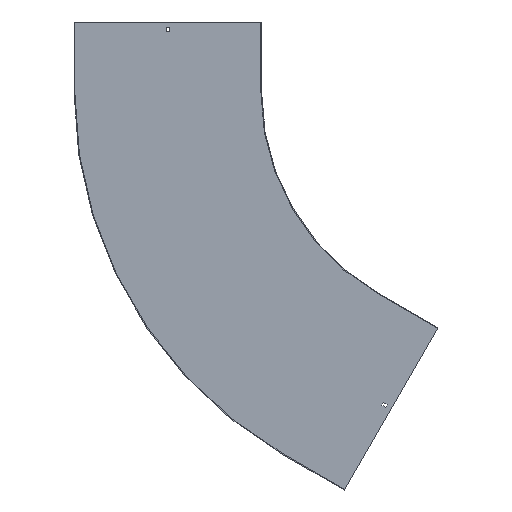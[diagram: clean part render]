
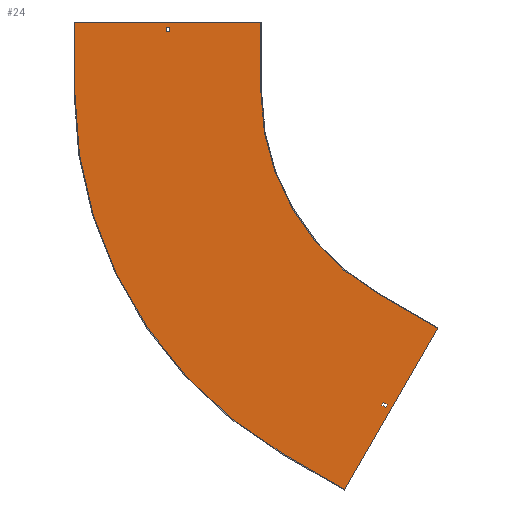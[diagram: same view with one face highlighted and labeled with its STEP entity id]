
A CAD part, front view. The second image highlights one B-rep face of the part: STEP entity #24.
In plain terms, the highlighted planar face has unit normal (0, -1, 0).
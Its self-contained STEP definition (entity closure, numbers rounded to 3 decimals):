
#3 = DIRECTION ( 'NONE',  ( 1., 0., 0. ) ) ;
#12 = LINE ( 'NONE', #623, #386 ) ;
#14 = CIRCLE ( 'NONE', #48, 900. ) ;
#17 = DIRECTION ( 'NONE',  ( 0., 0., -1. ) ) ;
#21 = ORIENTED_EDGE ( 'NONE', *, *, #471, .T. ) ;
#24 = ADVANCED_FACE ( 'NONE', ( #393, #185, #454 ), #115, .T. ) ;
#28 = ORIENTED_EDGE ( 'NONE', *, *, #215, .F. ) ;
#37 = VECTOR ( 'NONE', #3, 1000. ) ;
#45 = CARTESIAN_POINT ( 'NONE',  ( -696.75, -1.5, 129. ) ) ;
#47 = DIRECTION ( 'NONE',  ( -0.866, 0., 0.5 ) ) ;
#48 = AXIS2_PLACEMENT_3D ( 'NONE', #132, #498, #17 ) ;
#49 = CARTESIAN_POINT ( 'NONE',  ( 0., -1.5, 0. ) ) ;
#51 = EDGE_CURVE ( 'NONE', #156, #358, #444, .T. ) ;
#58 = DIRECTION ( 'NONE',  ( 1., 0., 0. ) ) ;
#64 = VECTOR ( 'NONE', #335, 1000. ) ;
#69 = CARTESIAN_POINT ( 'NONE',  ( 0., -1.5, 138. ) ) ;
#71 = LINE ( 'NONE', #338, #77 ) ;
#77 = VECTOR ( 'NONE', #606, 1000. ) ;
#78 = ORIENTED_EDGE ( 'NONE', *, *, #478, .F. ) ;
#80 = CIRCLE ( 'NONE', #631, 500. ) ;
#81 = ORIENTED_EDGE ( 'NONE', *, *, #827, .F. ) ;
#85 = LINE ( 'NONE', #225, #231 ) ;
#87 = CARTESIAN_POINT ( 'NONE',  ( -236.658, -1.5, -667.903 ) ) ;
#104 = VECTOR ( 'NONE', #423, 1000. ) ;
#106 = DIRECTION ( 'NONE',  ( 0., 0., 1. ) ) ;
#115 = PLANE ( 'NONE',  #815 ) ;
#124 = VERTEX_POINT ( 'NONE', #125 ) ;
#125 = CARTESIAN_POINT ( 'NONE',  ( -120.096, -1.5, -508.013 ) ) ;
#132 = CARTESIAN_POINT ( 'NONE',  ( 0., -1.5, 0. ) ) ;
#151 = DIRECTION ( 'NONE',  ( 0.866, 0., -0.5 ) ) ;
#154 = LINE ( 'NONE', #160, #104 ) ;
#155 = CARTESIAN_POINT ( 'NONE',  ( -703.25, -1.5, 129. ) ) ;
#156 = VERTEX_POINT ( 'NONE', #417 ) ;
#160 = CARTESIAN_POINT ( 'NONE',  ( 0., -1.5, 129. ) ) ;
#163 = EDGE_CURVE ( 'NONE', #734, #124, #85, .T. ) ;
#177 = CARTESIAN_POINT ( 'NONE',  ( -228.863, -1.5, -672.403 ) ) ;
#180 = VERTEX_POINT ( 'NONE', #177 ) ;
#184 = DIRECTION ( 'NONE',  ( -0.866, 0., 0.5 ) ) ;
#185 = FACE_OUTER_BOUND ( 'NONE', #790, .T. ) ;
#186 = CARTESIAN_POINT ( 'NONE',  ( 0., -1.5, 0. ) ) ;
#201 = ORIENTED_EDGE ( 'NONE', *, *, #336, .T. ) ;
#204 = VERTEX_POINT ( 'NONE', #45 ) ;
#212 = EDGE_CURVE ( 'NONE', #320, #180, #582, .T. ) ;
#215 = EDGE_CURVE ( 'NONE', #450, #290, #838, .T. ) ;
#223 = VERTEX_POINT ( 'NONE', #703 ) ;
#225 = CARTESIAN_POINT ( 'NONE',  ( -250., -1.5, -433.013 ) ) ;
#230 = ORIENTED_EDGE ( 'NONE', *, *, #266, .T. ) ;
#231 = VECTOR ( 'NONE', #151, 1000. ) ;
#241 = CARTESIAN_POINT ( 'NONE',  ( -239.908, -1.5, -673.532 ) ) ;
#243 = VERTEX_POINT ( 'NONE', #771 ) ;
#244 = CARTESIAN_POINT ( 'NONE',  ( -320.096, -1.5, -854.423 ) ) ;
#251 = VECTOR ( 'NONE', #58, 1000. ) ;
#261 = CARTESIAN_POINT ( 'NONE',  ( -500., -1.5, 150. ) ) ;
#264 = CARTESIAN_POINT ( 'NONE',  ( -901.5, -1.5, 150. ) ) ;
#266 = EDGE_CURVE ( 'NONE', #243, #223, #330, .T. ) ;
#267 = LINE ( 'NONE', #538, #696 ) ;
#271 = LINE ( 'NONE', #543, #481 ) ;
#272 = CARTESIAN_POINT ( 'NONE',  ( 111.717, -1.5, -64.5 ) ) ;
#287 = CARTESIAN_POINT ( 'NONE',  ( -900., -1.5, 150. ) ) ;
#290 = VERTEX_POINT ( 'NONE', #863 ) ;
#298 = EDGE_CURVE ( 'NONE', #124, #450, #541, .T. ) ;
#320 = VERTEX_POINT ( 'NONE', #616 ) ;
#321 = EDGE_CURVE ( 'NONE', #445, #535, #720, .T. ) ;
#330 = LINE ( 'NONE', #69, #251 ) ;
#332 = DIRECTION ( 'NONE',  ( 0., 0., -1. ) ) ;
#335 = DIRECTION ( 'NONE',  ( -0.5, 0., -0.866 ) ) ;
#336 = EDGE_CURVE ( 'NONE', #223, #204, #267, .T. ) ;
#338 = CARTESIAN_POINT ( 'NONE',  ( -351.625, -1.5, -609.032 ) ) ;
#346 = ORIENTED_EDGE ( 'NONE', *, *, #51, .F. ) ;
#358 = VERTEX_POINT ( 'NONE', #287 ) ;
#377 = CARTESIAN_POINT ( 'NONE',  ( -500., -1.5, 0. ) ) ;
#382 = VECTOR ( 'NONE', #106, 1000. ) ;
#386 = VECTOR ( 'NONE', #476, 1000. ) ;
#393 = FACE_BOUND ( 'NONE', #826, .T. ) ;
#417 = CARTESIAN_POINT ( 'NONE',  ( -900., -1.5, 0. ) ) ;
#422 = ORIENTED_EDGE ( 'NONE', *, *, #321, .F. ) ;
#423 = DIRECTION ( 'NONE',  ( -1., 0., 0. ) ) ;
#424 = EDGE_CURVE ( 'NONE', #290, #156, #14, .T. ) ;
#437 = CARTESIAN_POINT ( 'NONE',  ( 119.512, -1.5, -69. ) ) ;
#444 = LINE ( 'NONE', #704, #382 ) ;
#445 = VERTEX_POINT ( 'NONE', #87 ) ;
#450 = VERTEX_POINT ( 'NONE', #745 ) ;
#454 = FACE_BOUND ( 'NONE', #750, .T. ) ;
#460 = DIRECTION ( 'NONE',  ( 0., -1., 0. ) ) ;
#471 = EDGE_CURVE ( 'NONE', #614, #243, #12, .T. ) ;
#476 = DIRECTION ( 'NONE',  ( 0., 0., 1. ) ) ;
#478 = EDGE_CURVE ( 'NONE', #535, #320, #71, .T. ) ;
#481 = VECTOR ( 'NONE', #47, 1000. ) ;
#498 = DIRECTION ( 'NONE',  ( 0., 1., 0. ) ) ;
#513 = EDGE_CURVE ( 'NONE', #204, #614, #154, .T. ) ;
#518 = ORIENTED_EDGE ( 'NONE', *, *, #298, .F. ) ;
#535 = VERTEX_POINT ( 'NONE', #241 ) ;
#538 = CARTESIAN_POINT ( 'NONE',  ( -696.75, -1.5, 0. ) ) ;
#541 = LINE ( 'NONE', #798, #64 ) ;
#543 = CARTESIAN_POINT ( 'NONE',  ( -348.375, -1.5, -603.403 ) ) ;
#555 = DIRECTION ( 'NONE',  ( 0., 0., -1. ) ) ;
#560 = VERTEX_POINT ( 'NONE', #833 ) ;
#566 = ORIENTED_EDGE ( 'NONE', *, *, #163, .F. ) ;
#573 = ORIENTED_EDGE ( 'NONE', *, *, #513, .T. ) ;
#579 = VECTOR ( 'NONE', #848, 1000. ) ;
#582 = LINE ( 'NONE', #437, #626 ) ;
#587 = DIRECTION ( 'NONE',  ( 0.5, 0., 0.866 ) ) ;
#592 = CARTESIAN_POINT ( 'NONE',  ( -250., -1.5, -433.013 ) ) ;
#598 = DIRECTION ( 'NONE',  ( -0.5, 0., -0.866 ) ) ;
#602 = LINE ( 'NONE', #264, #37 ) ;
#606 = DIRECTION ( 'NONE',  ( 0.866, 0., -0.5 ) ) ;
#614 = VERTEX_POINT ( 'NONE', #155 ) ;
#616 = CARTESIAN_POINT ( 'NONE',  ( -232.113, -1.5, -678.032 ) ) ;
#623 = CARTESIAN_POINT ( 'NONE',  ( -703.25, -1.5, 0. ) ) ;
#626 = VECTOR ( 'NONE', #587, 1000. ) ;
#630 = ORIENTED_EDGE ( 'NONE', *, *, #851, .F. ) ;
#631 = AXIS2_PLACEMENT_3D ( 'NONE', #186, #801, #332 ) ;
#656 = LINE ( 'NONE', #261, #579 ) ;
#676 = ORIENTED_EDGE ( 'NONE', *, *, #699, .F. ) ;
#696 = VECTOR ( 'NONE', #555, 1000. ) ;
#699 = EDGE_CURVE ( 'NONE', #560, #797, #656, .T. ) ;
#703 = CARTESIAN_POINT ( 'NONE',  ( -696.75, -1.5, 138. ) ) ;
#704 = CARTESIAN_POINT ( 'NONE',  ( -900., -1.5, 0. ) ) ;
#713 = ORIENTED_EDGE ( 'NONE', *, *, #424, .F. ) ;
#715 = VECTOR ( 'NONE', #184, 1000. ) ;
#717 = DIRECTION ( 'NONE',  ( 0., 0., -1. ) ) ;
#720 = LINE ( 'NONE', #272, #739 ) ;
#721 = ORIENTED_EDGE ( 'NONE', *, *, #212, .F. ) ;
#734 = VERTEX_POINT ( 'NONE', #592 ) ;
#739 = VECTOR ( 'NONE', #598, 1000. ) ;
#745 = CARTESIAN_POINT ( 'NONE',  ( -320.096, -1.5, -854.423 ) ) ;
#750 = EDGE_LOOP ( 'NONE', ( #230, #201, #573, #21 ) ) ;
#771 = CARTESIAN_POINT ( 'NONE',  ( -703.25, -1.5, 138. ) ) ;
#790 = EDGE_LOOP ( 'NONE', ( #862, #346, #713, #28, #518, #566, #81, #676 ) ) ;
#797 = VERTEX_POINT ( 'NONE', #377 ) ;
#798 = CARTESIAN_POINT ( 'NONE',  ( -119.346, -1.5, -506.714 ) ) ;
#801 = DIRECTION ( 'NONE',  ( 0., -1., 0. ) ) ;
#815 = AXIS2_PLACEMENT_3D ( 'NONE', #49, #460, #717 ) ;
#826 = EDGE_LOOP ( 'NONE', ( #630, #721, #78, #422 ) ) ;
#827 = EDGE_CURVE ( 'NONE', #797, #734, #80, .T. ) ;
#833 = CARTESIAN_POINT ( 'NONE',  ( -500., -1.5, 150. ) ) ;
#838 = LINE ( 'NONE', #244, #715 ) ;
#843 = EDGE_CURVE ( 'NONE', #358, #560, #602, .T. ) ;
#848 = DIRECTION ( 'NONE',  ( 0., 0., -1. ) ) ;
#851 = EDGE_CURVE ( 'NONE', #180, #445, #271, .T. ) ;
#862 = ORIENTED_EDGE ( 'NONE', *, *, #843, .F. ) ;
#863 = CARTESIAN_POINT ( 'NONE',  ( -450., -1.5, -779.423 ) ) ;
